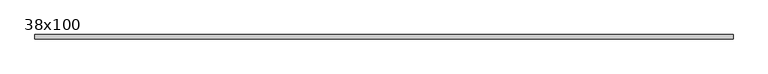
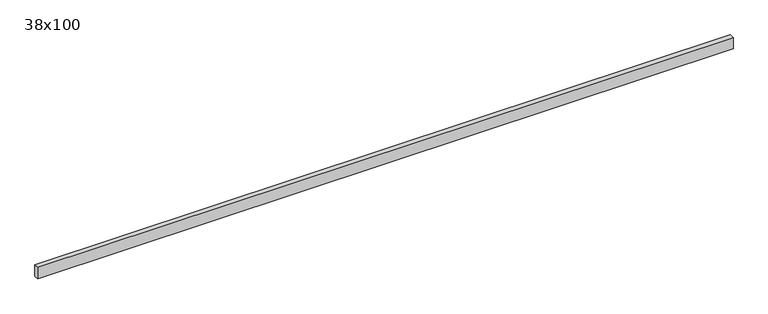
"""IFC4 building model written with IfcOpenShell, lengths in millimetres: beam geometry, Poutre - Bois de construction de dimensions courantes : 38x100."""

import ifcopenshell
import ifcopenshell.guid

model = None  # the IFC model being written
_history = None  # IfcOwnerHistory: only IFC2X3 demands one
_inside = {}  # id of a spatial element -> (the spatial element, [elements in it])
_under = {}  # id of a project, library or spatial element -> (it, [spatial elements below it])
_declared = {}  # id of a project -> (the project, [libraries it declares])
_typed = {}  # id of a type object -> (the type object, [elements of that type])
_made_of = {}  # id of a material, layer set ... -> (it, [elements and type objects made of it])


def new_model(schema):
    """Start an empty IFC model of exactly this schema.

    Asked for "IFC4X3", IfcOpenShell would pick the latest addendum, in which some entities
    have other attributes; the version numbers below select the first issue.
    IFC2X3 requires an IfcOwnerHistory on every rooted entity: one is made here for all.
    """
    global model, _history
    if schema == "IFC4X3":
        model = ifcopenshell.file(schema_version=(4, 3, 0, 0))
    else:
        model = ifcopenshell.file(schema=schema)
    _inside.clear()
    _under.clear()
    _declared.clear()
    _typed.clear()
    _made_of.clear()
    _history = None
    if model.schema == "IFC2X3":
        org = make("IfcOrganization", Name="unknown")
        user = make(
            "IfcPersonAndOrganization",
            ThePerson=make("IfcPerson", FamilyName="unknown"),
            TheOrganization=org,
        )
        app = make(
            "IfcApplication",
            ApplicationDeveloper=org,
            Version="unknown",
            ApplicationFullName="unknown",
            ApplicationIdentifier="unknown",
        )
        _history = make(
            "IfcOwnerHistory",
            OwningUser=user,
            OwningApplication=app,
            ChangeAction="ADDED",
            CreationDate=0,
        )
    return model


def make(cls, **values):
    """One entity of the class cls with the attributes given. An attribute that is None is left unset."""
    return model.create_entity(
        cls, **{name: value for name, value in values.items() if value is not None}
    )


def rooted(cls, **values):
    """An entity with a GlobalId (a new one), such as an element, a storey or a relation."""
    return make(cls, GlobalId=ifcopenshell.guid.new(), OwnerHistory=_history, **values)


def si_unit(unit_type, name, prefix=None):
    """IfcSIUnit, for example si_unit("LENGTHUNIT", "METRE", prefix="MILLI")."""
    return make("IfcSIUnit", UnitType=unit_type, Prefix=prefix, Name=name)


def assignment(units):
    """IfcUnitAssignment: the units of a project."""
    return None if units is None else make("IfcUnitAssignment", Units=units)


def point(xyz):
    """IfcCartesianPoint."""
    return None if xyz is None else make("IfcCartesianPoint", Coordinates=xyz)


def direction(xyz):
    """IfcDirection."""
    return None if xyz is None else make("IfcDirection", DirectionRatios=xyz)


def frame(location, z_axis=None, x_axis=None):
    """IfcAxis2Placement3D, a coordinate frame: its origin and axes. An axis left out is left unset."""
    return make(
        "IfcAxis2Placement3D",
        Location=point(location),
        Axis=direction(z_axis),
        RefDirection=direction(x_axis),
    )


def origin():
    """The frame at (0, 0, 0) with its axes left unset."""
    return frame((0.0, 0.0, 0.0))


def place(relative_to, where):
    """IfcLocalPlacement: puts the frame where relative to a parent placement (None: the world)."""
    return make(
        "IfcLocalPlacement", PlacementRelTo=relative_to, RelativePlacement=where
    )


def context(
    kind, dimensions, precision=None, world=None, true_north=None, identifier=None
):
    """IfcGeometricRepresentationContext, for example the 3D "Model" context."""
    return make(
        "IfcGeometricRepresentationContext",
        ContextIdentifier=identifier,
        ContextType=kind,
        CoordinateSpaceDimension=dimensions,
        Precision=precision,
        WorldCoordinateSystem=world,
        TrueNorth=true_north,
    )


def project(units=None, contexts=None):
    """IfcProject with its units and contexts."""
    return rooted(
        "IfcProject",
        Name="project",
        RepresentationContexts=contexts,
        UnitsInContext=assignment(units),
    )


def spatial(cls, under=None, at=None, **own):
    """A site, building, storey or space (cls), placed at a placement, below another one or the project."""
    s = rooted(cls, ObjectPlacement=at, **own)
    if under is not None:
        _under.setdefault(under.id(), (under, []))[1].append(s)
    return s


def polyline(points):
    """IfcPolyline through the points."""
    return make("IfcPolyline", Points=[point(p) for p in points])


def outline(outer, holes=None, kind="AREA"):
    """IfcArbitraryClosedProfileDef: a profile drawn as a closed curve; with holes, ...WithVoids."""
    if holes is None:
        return make("IfcArbitraryClosedProfileDef", ProfileType=kind, OuterCurve=outer)
    return make(
        "IfcArbitraryProfileDefWithVoids",
        ProfileType=kind,
        OuterCurve=outer,
        InnerCurves=holes,
    )


def extrude(swept, where, along, depth):
    """IfcExtrudedAreaSolid: the profile swept, set in the frame where, extruded along a direction by depth."""
    return make(
        "IfcExtrudedAreaSolid",
        SweptArea=swept,
        Position=where,
        ExtrudedDirection=direction(along),
        Depth=depth,
    )


def shape(context_of_items, identifier, shape_type, items):
    """IfcShapeRepresentation: the items that make up one representation, for example the "Body"."""
    return make(
        "IfcShapeRepresentation",
        ContextOfItems=context_of_items,
        RepresentationIdentifier=identifier,
        RepresentationType=shape_type,
        Items=items,
    )


def source(mapping_origin, context_of_items, identifier, shape_type, items):
    """IfcRepresentationMap: a shape defined once, which mapped items show again and again."""
    return make(
        "IfcRepresentationMap",
        MappingOrigin=mapping_origin,
        MappedRepresentation=shape(context_of_items, identifier, shape_type, items),
    )


def transform(
    local_origin,
    x_axis=None,
    y_axis=None,
    z_axis=None,
    scale=None,
    scale2=None,
    scale3=None,
    uniform=True,
):
    """IfcCartesianTransformationOperator3D, or its non-uniform kind. x_axis, y_axis, z_axis: its Axis1, 2, 3."""
    if uniform:
        return make(
            "IfcCartesianTransformationOperator3D",
            Axis1=direction(x_axis),
            Axis2=direction(y_axis),
            LocalOrigin=point(local_origin),
            Scale=scale,
            Axis3=direction(z_axis),
        )
    return make(
        "IfcCartesianTransformationOperator3DnonUniform",
        Axis1=direction(x_axis),
        Axis2=direction(y_axis),
        LocalOrigin=point(local_origin),
        Scale=scale,
        Axis3=direction(z_axis),
        Scale2=scale2,
        Scale3=scale3,
    )


def mapped(mapping_source, mapping_target):
    """IfcMappedItem: shows the shape of a source again, moved by a transform."""
    return make(
        "IfcMappedItem", MappingSource=mapping_source, MappingTarget=mapping_target
    )


def made_of(thing, what):
    """Note that an element or type object is made of a material, layer set ...; save() writes the relation."""
    if what is not None:
        _made_of.setdefault(what.id(), (what, []))[1].append(thing)
    return thing


def element(
    cls,
    number,
    at=None,
    inside=None,
    cuts=None,
    type_object=None,
    material=None,
    context=None,
    identifier="Body",
    shape_type=None,
    held_by="IfcProductDefinitionShape",
    body=None,
    shapes=None,
    **own,
):
    """One element of the class cls, such as IfcWall. Its Tag is "e" and its number.

    at: its placement. inside: the storey or other place that contains it. cuts: it is an
    opening in that element (IfcRelVoidsElement). A single representation is given by context,
    identifier, shape_type and body (its items); several are given by shapes. held_by: the class
    of the entity that holds the representations. save() writes the other relations.
    """
    e = rooted(cls, Tag="e%d" % number, ObjectPlacement=at, **own)
    if body is not None:
        shapes = [shape(context, identifier, shape_type, body)]
    if shapes is not None:
        e.Representation = make(held_by, Representations=shapes)
    if inside is not None:
        _inside.setdefault(inside.id(), (inside, []))[1].append(e)
    if cuts is not None:
        rooted(
            "IfcRelVoidsElement", RelatingBuildingElement=cuts, RelatedOpeningElement=e
        )
    if type_object is not None:
        _typed.setdefault(type_object.id(), (type_object, []))[1].append(e)
    return made_of(e, material)


def aggregate(whole, parts):
    """IfcRelAggregates: a whole, such as a stair, and the parts it consists of."""
    return rooted("IfcRelAggregates", RelatingObject=whole, RelatedObjects=parts)


def save(model, path):
    """Write the relations noted so far, then the file.

    IfcRelAggregates (storeys below a building ...), IfcRelContainedInSpatialStructure (elements
    in a storey), IfcRelDefinesByType, IfcRelAssociatesMaterial and IfcRelDeclares: one each for
    every whole, place, type object, material and project.
    """
    for whole, parts in _under.values():
        aggregate(whole, parts)
    for where, things in _inside.values():
        rooted(
            "IfcRelContainedInSpatialStructure",
            RelatedElements=things,
            RelatingStructure=where,
        )
    for kind, things in _typed.values():
        rooted("IfcRelDefinesByType", RelatedObjects=things, RelatingType=kind)
    for what, things in _made_of.values():
        rooted("IfcRelAssociatesMaterial", RelatedObjects=things, RelatingMaterial=what)
    for by, libraries in _declared.values():
        rooted("IfcRelDeclares", RelatingContext=by, RelatedDefinitions=libraries)
    model.write(path)


def beam_38x100_03405bcd(model_context):
    return source(origin(), model_context, "Body", "SweptSolid", [
        extrude(outline(polyline([(2902.5, 19.05), (2902.5, -19.05), (-2902.5, -19.05), (-2902.5, 19.05), (2902.5, 19.05)])), frame((0.0, 0.0, -50.0), z_axis=(0.0, 0.0, 1.0), x_axis=(1.0, 0.0, 0.0)), (0.0, 0.0, 1.0), 100.0),
    ])


if __name__ == "__main__":
    model = new_model("IFC4")
    model_context = context("Model", 3, world=origin())
    ifc_project = project(units=[si_unit("LENGTHUNIT", "METRE", prefix="MILLI")], contexts=[model_context])
    site = spatial("IfcSite", under=ifc_project)
    building = spatial("IfcBuilding", under=site)
    placement = place(None, origin())
    beam_38x100_shape = beam_38x100_03405bcd(model_context)
    element("IfcBeam", 1, ObjectType="Poutre - Bois de construction de dimensions courantes : 38x100", at=placement, inside=building, context=model_context, shape_type="MappedRepresentation", body=[
        mapped(beam_38x100_shape, transform((0.0, 0.0, 0.0), x_axis=(1.0, 0.0, 0.0), y_axis=(0.0, 1.0, 0.0), z_axis=(0.0, 0.0, 1.0))),
    ])
    save(model, "model.ifc")
